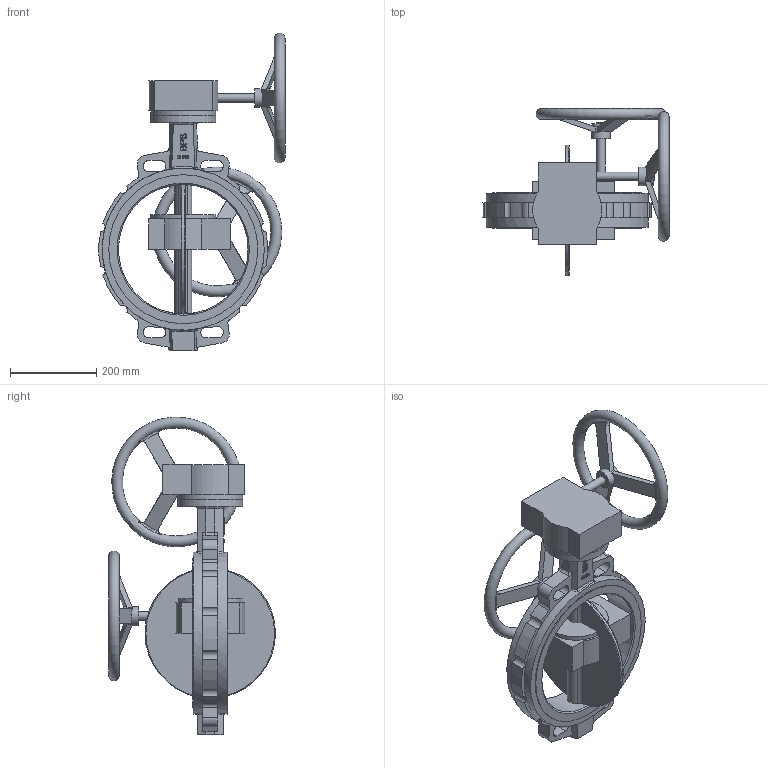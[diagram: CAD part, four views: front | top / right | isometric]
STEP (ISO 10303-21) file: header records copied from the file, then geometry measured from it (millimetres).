
FILE_DESCRIPTION( ( 'Unknown' ), '1' );
FILE_NAME( 'R:/ECCUA/ROOTSI BPS 3D vidinad/Poordklapid Wafer type/Butterfly valve(wafer) with gearbox BPS/STEP formaat/BPS 2303300 butterfly valve DN300.stp', 'Unknown', ( 'Unknown' ), ( 'Unknown' ), 'PSStep 10.1', 'Unknown', ' ' );
FILE_SCHEMA( ( 'AUTOMOTIVE_DESIGN { 1 0 10303 214 1 1 1 1 }' ) );
Length unit declared in the file: millimetre
Products named in the file (3): Assem1; Butterfly valve wafer type DN300 BPS; Gearbox DN250-350 BPS
Bounding box: 430.51 x 386.49 x 734.8 mm (x, y, z)
Volume: 16473301.1 mm3; surface area: 1500049.1 mm2
Topology: 4 solids, 4 shells, 530 faces, 1414 edges, 934 vertices
Faces by surface type: plane 198, cylinder 160, extrusion 84, bspline 66, torus 18, cone 4
Full cylindrical faces by diameter (mm): 13 x8, 19 x4, 43 x2, 150 x4, 300 x2, 345 x4, 375 x4
Entity records: 16218 total; most frequent: CARTESIAN_POINT 7855, ORIENTED_EDGE 1348, DIRECTION 1110, EDGE_CURVE 674, VERTEX_POINT 457, AXIS2_PLACEMENT_3D 387, VECTOR 336, EDGE_LOOP 333
